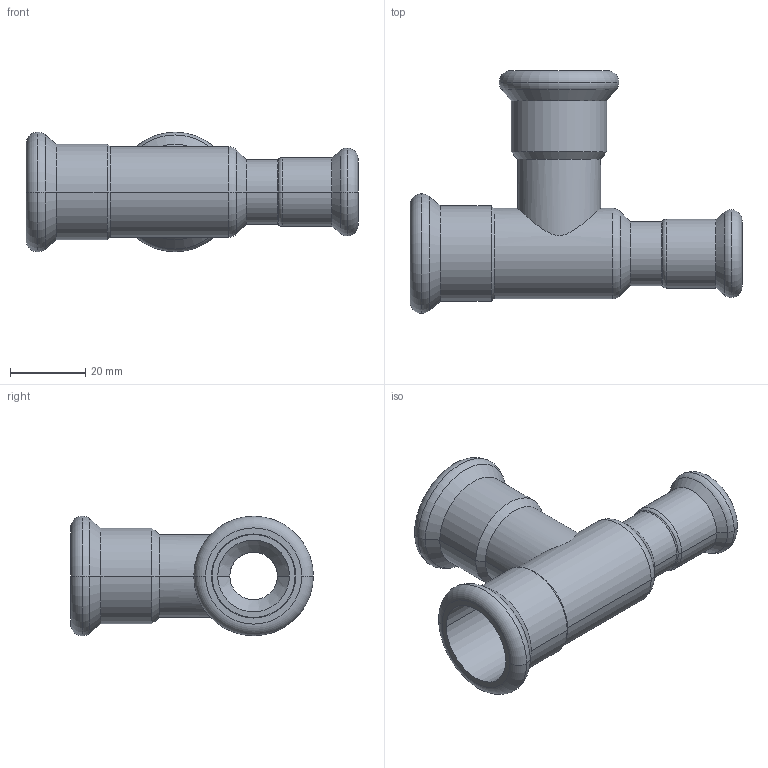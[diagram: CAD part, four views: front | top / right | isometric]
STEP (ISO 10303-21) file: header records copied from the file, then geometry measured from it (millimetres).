
FILE_DESCRIPTION(('CoCreate Modeling STEP Export'),'2;1');
FILE_NAME('C1416 22x22x15.stp','2014-11-12T11:03:53',(''),(''),'CoCreate Modeling STEP processor for AP214 (Solid Model)','CoCreate Modeling 17.00A 17-Jun-2010 (C) Parametric Technology GmbH','');
FILE_SCHEMA(('AUTOMOTIVE_DESIGN { 1 0 10303 214 1 1 1 1 }'));
Length unit declared in the file: millimetre
Products named in the file (2): C1416_22x22x15
Assembly tree (1 placements, depth 2):
  C1416_22x22x15
    C1416_22x22x15
Bounding box: 88 x 64.35 x 31.7 mm (x, y, z)
Volume: 16741.3 mm3; surface area: 18195.7 mm2
Topology: 1 solids, 1 shells, 74 faces, 157 edges, 91 vertices
Faces by surface type: cylinder 32, torus 16, cone 16, plane 10
Entity records: 2968 total; most frequent: CARTESIAN_POINT 1567, ORIENTED_EDGE 314, DIRECTION 248, EDGE_CURVE 157, AXIS2_PLACEMENT_3D 100, VERTEX_POINT 91, EDGE_LOOP 84, FACE_OUTER_BOUND 74
